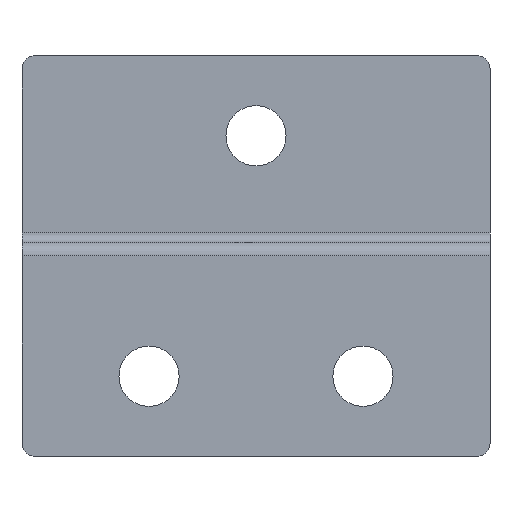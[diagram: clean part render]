
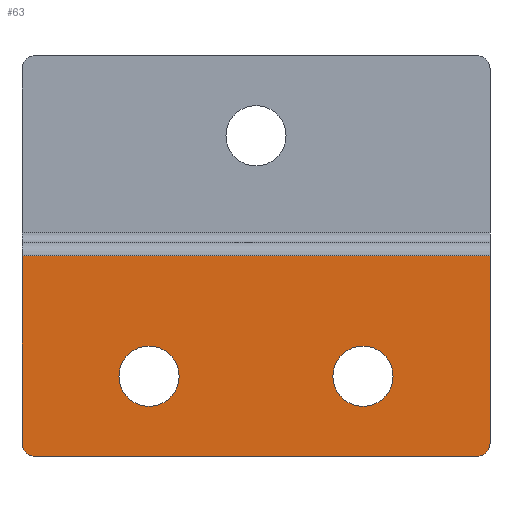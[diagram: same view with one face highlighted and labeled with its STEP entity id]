
A CAD part, top view. The second image highlights one B-rep face of the part: STEP entity #63.
In plain terms, the highlighted planar face has unit normal (0, 0, 1).
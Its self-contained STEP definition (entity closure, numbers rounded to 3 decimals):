
#6 = CARTESIAN_POINT ( 'NONE',  ( 16.5, 1., 0. ) ) ;
#27 = EDGE_CURVE ( 'NONE', #861, #480, #207, .T. ) ;
#28 = FACE_BOUND ( 'NONE', #514, .T. ) ;
#39 = DIRECTION ( 'NONE',  ( 1., 0., 0. ) ) ;
#42 = CARTESIAN_POINT ( 'NONE',  ( -8., 6., 0. ) ) ;
#55 = ORIENTED_EDGE ( 'NONE', *, *, #27, .F. ) ;
#63 = ADVANCED_FACE ( 'NONE', ( #28, #759, #595 ), #176, .F. ) ;
#70 = LINE ( 'NONE', #348, #391 ) ;
#80 = CARTESIAN_POINT ( 'NONE',  ( -17.5, 15., 0. ) ) ;
#86 = DIRECTION ( 'NONE',  ( 0., 0., 1. ) ) ;
#99 = ORIENTED_EDGE ( 'NONE', *, *, #565, .T. ) ;
#101 = DIRECTION ( 'NONE',  ( 0., 0., 1. ) ) ;
#109 = EDGE_CURVE ( 'NONE', #355, #742, #845, .T. ) ;
#117 = CIRCLE ( 'NONE', #893, 1. ) ;
#123 = DIRECTION ( 'NONE',  ( 1., 0., 0. ) ) ;
#138 = CARTESIAN_POINT ( 'NONE',  ( -5.75, 6., 0. ) ) ;
#162 = EDGE_CURVE ( 'NONE', #873, #796, #456, .T. ) ;
#176 = PLANE ( 'NONE',  #676 ) ;
#192 = DIRECTION ( 'NONE',  ( 0., 0., 1. ) ) ;
#198 = EDGE_CURVE ( 'NONE', #480, #861, #782, .T. ) ;
#207 = CIRCLE ( 'NONE', #737, 2.25 ) ;
#208 = AXIS2_PLACEMENT_3D ( 'NONE', #349, #914, #123 ) ;
#215 = CARTESIAN_POINT ( 'NONE',  ( -16.5, 1., 0. ) ) ;
#235 = ORIENTED_EDGE ( 'NONE', *, *, #761, .T. ) ;
#273 = ORIENTED_EDGE ( 'NONE', *, *, #162, .T. ) ;
#278 = CARTESIAN_POINT ( 'NONE',  ( 17.5, 15., 0. ) ) ;
#292 = DIRECTION ( 'NONE',  ( -1., 0., 0. ) ) ;
#300 = VERTEX_POINT ( 'NONE', #705 ) ;
#325 = AXIS2_PLACEMENT_3D ( 'NONE', #6, #898, #667 ) ;
#348 = CARTESIAN_POINT ( 'NONE',  ( -17.5, 0., 0. ) ) ;
#349 = CARTESIAN_POINT ( 'NONE',  ( 8., 6., 0. ) ) ;
#355 = VERTEX_POINT ( 'NONE', #714 ) ;
#372 = CARTESIAN_POINT ( 'NONE',  ( -16.5, 0., 0. ) ) ;
#391 = VECTOR ( 'NONE', #576, 1000. ) ;
#401 = DIRECTION ( 'NONE',  ( 0., 0., -1. ) ) ;
#426 = EDGE_CURVE ( 'NONE', #575, #873, #117, .T. ) ;
#456 = LINE ( 'NONE', #745, #827 ) ;
#459 = CARTESIAN_POINT ( 'NONE',  ( -8., 6., 0. ) ) ;
#473 = CARTESIAN_POINT ( 'NONE',  ( 17.5, 0., 0. ) ) ;
#476 = CARTESIAN_POINT ( 'NONE',  ( -17.5, 1., 0. ) ) ;
#478 = VECTOR ( 'NONE', #501, 1000. ) ;
#480 = VERTEX_POINT ( 'NONE', #668 ) ;
#488 = LINE ( 'NONE', #473, #843 ) ;
#492 = ORIENTED_EDGE ( 'NONE', *, *, #594, .F. ) ;
#501 = DIRECTION ( 'NONE',  ( -1., 0., 0. ) ) ;
#503 = DIRECTION ( 'NONE',  ( 0., 0., 1. ) ) ;
#514 = EDGE_LOOP ( 'NONE', ( #492, #778 ) ) ;
#517 = DIRECTION ( 'NONE',  ( 1., 0., 0. ) ) ;
#556 = DIRECTION ( 'NONE',  ( 1., 0., 0. ) ) ;
#565 = EDGE_CURVE ( 'NONE', #698, #300, #488, .T. ) ;
#570 = CARTESIAN_POINT ( 'NONE',  ( 16.5, 0., 0. ) ) ;
#573 = LINE ( 'NONE', #278, #478 ) ;
#575 = VERTEX_POINT ( 'NONE', #476 ) ;
#576 = DIRECTION ( 'NONE',  ( 0., -1., 0. ) ) ;
#589 = CARTESIAN_POINT ( 'NONE',  ( 8., 6., 0. ) ) ;
#594 = EDGE_CURVE ( 'NONE', #742, #355, #811, .T. ) ;
#595 = FACE_OUTER_BOUND ( 'NONE', #891, .T. ) ;
#609 = DIRECTION ( 'NONE',  ( -1., 0., 0. ) ) ;
#614 = ORIENTED_EDGE ( 'NONE', *, *, #198, .F. ) ;
#626 = CIRCLE ( 'NONE', #325, 1. ) ;
#659 = DIRECTION ( 'NONE',  ( 1., 0., 0. ) ) ;
#662 = CARTESIAN_POINT ( 'NONE',  ( 5.75, 6., 0. ) ) ;
#667 = DIRECTION ( 'NONE',  ( -1., 0., 0. ) ) ;
#668 = CARTESIAN_POINT ( 'NONE',  ( 10.25, 6., 0. ) ) ;
#676 = AXIS2_PLACEMENT_3D ( 'NONE', #905, #401, #609 ) ;
#698 = VERTEX_POINT ( 'NONE', #879 ) ;
#705 = CARTESIAN_POINT ( 'NONE',  ( 17.5, 15., 0. ) ) ;
#707 = EDGE_CURVE ( 'NONE', #300, #709, #573, .T. ) ;
#709 = VERTEX_POINT ( 'NONE', #80 ) ;
#714 = CARTESIAN_POINT ( 'NONE',  ( -10.25, 6., 0. ) ) ;
#719 = AXIS2_PLACEMENT_3D ( 'NONE', #42, #192, #556 ) ;
#737 = AXIS2_PLACEMENT_3D ( 'NONE', #589, #86, #659 ) ;
#742 = VERTEX_POINT ( 'NONE', #138 ) ;
#745 = CARTESIAN_POINT ( 'NONE',  ( -17.5, 0., 0. ) ) ;
#759 = FACE_BOUND ( 'NONE', #799, .T. ) ;
#761 = EDGE_CURVE ( 'NONE', #709, #575, #70, .T. ) ;
#772 = DIRECTION ( 'NONE',  ( 0., 1., 0. ) ) ;
#778 = ORIENTED_EDGE ( 'NONE', *, *, #109, .F. ) ;
#782 = CIRCLE ( 'NONE', #208, 2.25 ) ;
#796 = VERTEX_POINT ( 'NONE', #570 ) ;
#799 = EDGE_LOOP ( 'NONE', ( #614, #55 ) ) ;
#811 = CIRCLE ( 'NONE', #719, 2.25 ) ;
#817 = ORIENTED_EDGE ( 'NONE', *, *, #426, .T. ) ;
#827 = VECTOR ( 'NONE', #39, 1000. ) ;
#829 = EDGE_CURVE ( 'NONE', #796, #698, #626, .T. ) ;
#834 = ORIENTED_EDGE ( 'NONE', *, *, #829, .T. ) ;
#843 = VECTOR ( 'NONE', #772, 1000. ) ;
#845 = CIRCLE ( 'NONE', #924, 2.25 ) ;
#861 = VERTEX_POINT ( 'NONE', #662 ) ;
#873 = VERTEX_POINT ( 'NONE', #372 ) ;
#879 = CARTESIAN_POINT ( 'NONE',  ( 17.5, 1., 0. ) ) ;
#891 = EDGE_LOOP ( 'NONE', ( #235, #817, #273, #834, #99, #935 ) ) ;
#893 = AXIS2_PLACEMENT_3D ( 'NONE', #215, #503, #292 ) ;
#898 = DIRECTION ( 'NONE',  ( 0., 0., 1. ) ) ;
#905 = CARTESIAN_POINT ( 'NONE',  ( 0., 0., 0. ) ) ;
#914 = DIRECTION ( 'NONE',  ( 0., 0., 1. ) ) ;
#924 = AXIS2_PLACEMENT_3D ( 'NONE', #459, #101, #517 ) ;
#935 = ORIENTED_EDGE ( 'NONE', *, *, #707, .T. ) ;
